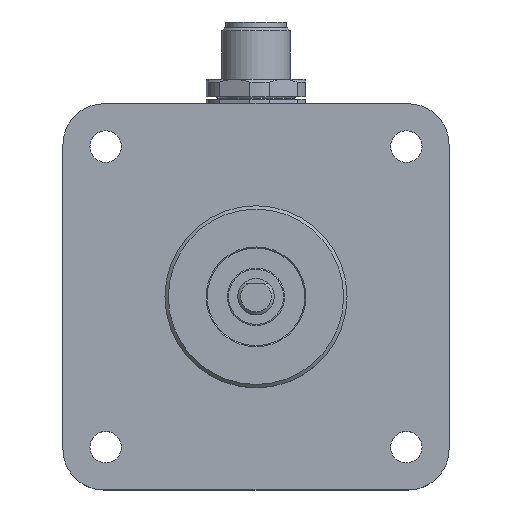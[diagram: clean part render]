
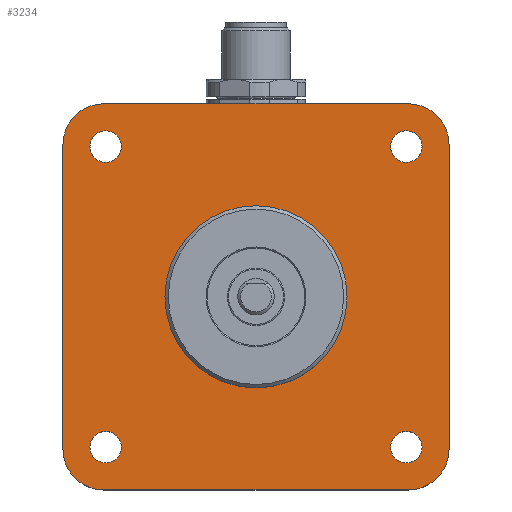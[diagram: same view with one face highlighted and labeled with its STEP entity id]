
A CAD part, top view. The second image highlights one B-rep face of the part: STEP entity #3234.
In plain terms, the highlighted planar face has unit normal (0, 0, 1).
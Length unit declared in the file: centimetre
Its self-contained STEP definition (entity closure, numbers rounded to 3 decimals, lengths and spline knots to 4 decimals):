
#164=VECTOR('',#5206,1.);
#165=VECTOR('',#5209,1.);
#166=VECTOR('',#5212,1.);
#167=VECTOR('',#5215,1.);
#283=LINE('',#4102,#164);
#284=LINE('',#4107,#165);
#285=LINE('',#4111,#166);
#286=LINE('',#4115,#167);
#516=PLANE('',#3534);
#641=VERTEX_POINT('',#4093);
#642=VERTEX_POINT('',#4095);
#643=VERTEX_POINT('',#4097);
#644=VERTEX_POINT('',#4099);
#645=VERTEX_POINT('',#4101);
#646=VERTEX_POINT('',#4103);
#647=VERTEX_POINT('',#4104);
#648=VERTEX_POINT('',#4106);
#649=VERTEX_POINT('',#4108);
#650=VERTEX_POINT('',#4110);
#651=VERTEX_POINT('',#4112);
#652=VERTEX_POINT('',#4114);
#653=VERTEX_POINT('',#4116);
#954=CIRCLE('',#3535,1.5875);
#955=CIRCLE('',#3536,0.275);
#956=CIRCLE('',#3537,0.275);
#957=CIRCLE('',#3538,0.275);
#958=CIRCLE('',#3539,0.275);
#959=CIRCLE('',#3540,0.71);
#960=CIRCLE('',#3541,0.71);
#961=CIRCLE('',#3542,0.71);
#962=CIRCLE('',#3543,0.71);
#1205=EDGE_CURVE('',#641,#641,#954,.T.);
#1206=EDGE_CURVE('',#642,#642,#955,.T.);
#1207=EDGE_CURVE('',#643,#643,#956,.T.);
#1208=EDGE_CURVE('',#644,#644,#957,.T.);
#1209=EDGE_CURVE('',#645,#645,#958,.T.);
#1210=EDGE_CURVE('',#646,#647,#283,.T.);
#1211=EDGE_CURVE('',#647,#648,#959,.T.);
#1212=EDGE_CURVE('',#648,#649,#284,.T.);
#1213=EDGE_CURVE('',#649,#650,#960,.T.);
#1214=EDGE_CURVE('',#650,#651,#285,.T.);
#1215=EDGE_CURVE('',#651,#652,#961,.T.);
#1216=EDGE_CURVE('',#652,#653,#286,.T.);
#1217=EDGE_CURVE('',#653,#646,#962,.T.);
#1602=ORIENTED_EDGE('',*,*,#1205,.T.);
#1603=ORIENTED_EDGE('',*,*,#1206,.F.);
#1604=ORIENTED_EDGE('',*,*,#1207,.F.);
#1605=ORIENTED_EDGE('',*,*,#1208,.F.);
#1606=ORIENTED_EDGE('',*,*,#1209,.F.);
#1607=ORIENTED_EDGE('',*,*,#1210,.T.);
#1608=ORIENTED_EDGE('',*,*,#1211,.T.);
#1609=ORIENTED_EDGE('',*,*,#1212,.T.);
#1610=ORIENTED_EDGE('',*,*,#1213,.T.);
#1611=ORIENTED_EDGE('',*,*,#1214,.T.);
#1612=ORIENTED_EDGE('',*,*,#1215,.T.);
#1613=ORIENTED_EDGE('',*,*,#1216,.T.);
#1614=ORIENTED_EDGE('',*,*,#1217,.T.);
#2376=EDGE_LOOP('',(#1602));
#2377=EDGE_LOOP('',(#1603));
#2378=EDGE_LOOP('',(#1604));
#2379=EDGE_LOOP('',(#1605));
#2380=EDGE_LOOP('',(#1606));
#2381=EDGE_LOOP('',(#1607,#1608,#1609,#1610,#1611,#1612,#1613,#1614));
#2810=FACE_BOUND('',#2376,.T.);
#2811=FACE_BOUND('',#2377,.T.);
#2812=FACE_BOUND('',#2378,.T.);
#2813=FACE_BOUND('',#2379,.T.);
#2814=FACE_BOUND('',#2380,.T.);
#2815=FACE_BOUND('',#2381,.T.);
#3234=ADVANCED_FACE('',(#2810,#2811,#2812,#2813,#2814,#2815),#516,.T.);
#3534=AXIS2_PLACEMENT_3D('',#4091,#5195,$);
#3535=AXIS2_PLACEMENT_3D('',#4092,#5196,#5197);
#3536=AXIS2_PLACEMENT_3D('',#4094,#5198,#5199);
#3537=AXIS2_PLACEMENT_3D('',#4096,#5200,#5201);
#3538=AXIS2_PLACEMENT_3D('',#4098,#5202,#5203);
#3539=AXIS2_PLACEMENT_3D('',#4100,#5204,#5205);
#3540=AXIS2_PLACEMENT_3D('',#4105,#5207,#5208);
#3541=AXIS2_PLACEMENT_3D('',#4109,#5210,#5211);
#3542=AXIS2_PLACEMENT_3D('',#4113,#5213,#5214);
#3543=AXIS2_PLACEMENT_3D('',#4117,#5216,#5217);
#4091=CARTESIAN_POINT('',(0.,0.,
0.));
#4092=CARTESIAN_POINT('',(0.,0.,0.));
#4093=CARTESIAN_POINT('',(1.5875,0.,0.));
#4094=CARTESIAN_POINT('',(2.62,-2.62,0.));
#4095=CARTESIAN_POINT('',(2.895,-2.62,0.));
#4096=CARTESIAN_POINT('',(2.62,2.62,0.));
#4097=CARTESIAN_POINT('',(2.895,2.62,0.));
#4098=CARTESIAN_POINT('',(-2.62,2.62,0.));
#4099=CARTESIAN_POINT('',(-2.345,2.62,0.));
#4100=CARTESIAN_POINT('',(-2.62,-2.62,0.));
#4101=CARTESIAN_POINT('',(-2.345,-2.62,0.));
#4102=CARTESIAN_POINT('',(-3.3655,2.6555,0.));
#4103=CARTESIAN_POINT('',(-3.3655,2.6555,0.));
#4104=CARTESIAN_POINT('',(-3.3655,-2.6555,0.));
#4105=CARTESIAN_POINT('',(-2.6555,-2.6555,0.));
#4106=CARTESIAN_POINT('',(-2.6555,-3.3655,0.));
#4107=CARTESIAN_POINT('',(-2.6555,-3.3655,0.));
#4108=CARTESIAN_POINT('',(2.6555,-3.3655,0.));
#4109=CARTESIAN_POINT('',(2.6555,-2.6555,0.));
#4110=CARTESIAN_POINT('',(3.3655,-2.6555,0.));
#4111=CARTESIAN_POINT('',(3.3655,-2.6555,0.));
#4112=CARTESIAN_POINT('',(3.3655,2.6555,0.));
#4113=CARTESIAN_POINT('',(2.6555,2.6555,0.));
#4114=CARTESIAN_POINT('',(2.6555,3.3655,0.));
#4115=CARTESIAN_POINT('',(2.6555,3.3655,0.));
#4116=CARTESIAN_POINT('',(-2.6555,3.3655,0.));
#4117=CARTESIAN_POINT('',(-2.6555,2.6555,0.));
#5195=DIRECTION('',(0.,0.,1.));
#5196=DIRECTION('',(0.,0.,-1.));
#5197=DIRECTION('',(1.588,0.,0.));
#5198=DIRECTION('',(0.,0.,1.));
#5199=DIRECTION('',(0.275,0.,0.));
#5200=DIRECTION('',(0.,0.,1.));
#5201=DIRECTION('',(0.275,0.,0.));
#5202=DIRECTION('',(0.,0.,1.));
#5203=DIRECTION('',(0.275,0.,0.));
#5204=DIRECTION('',(0.,0.,1.));
#5205=DIRECTION('',(0.275,0.,0.));
#5206=DIRECTION('',(0.,-1.,0.));
#5207=DIRECTION('',(0.,0.,1.));
#5208=DIRECTION('',(0.71,0.,0.));
#5209=DIRECTION('',(1.,0.,0.));
#5210=DIRECTION('',(0.,0.,1.));
#5211=DIRECTION('',(0.71,0.,0.));
#5212=DIRECTION('',(0.,1.,0.));
#5213=DIRECTION('',(0.,0.,1.));
#5214=DIRECTION('',(0.71,0.,0.));
#5215=DIRECTION('',(-1.,0.,0.));
#5216=DIRECTION('',(0.,0.,1.));
#5217=DIRECTION('',(0.71,0.,0.));
